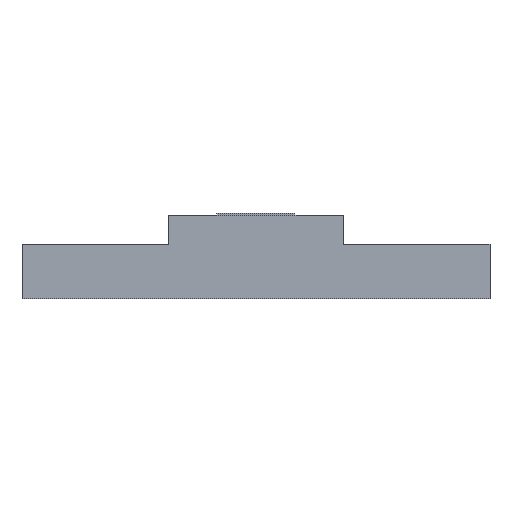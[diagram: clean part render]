
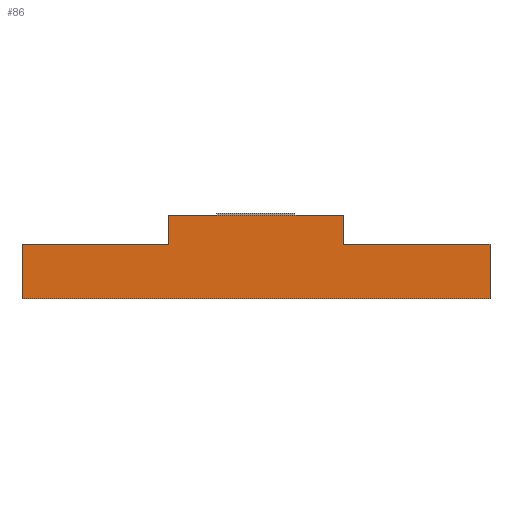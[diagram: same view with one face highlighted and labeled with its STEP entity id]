
A CAD part, front view. The second image highlights one B-rep face of the part: STEP entity #86.
In plain terms, the highlighted planar face has unit normal (0, -1, 0).
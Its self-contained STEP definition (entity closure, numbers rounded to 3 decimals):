
#86=ADVANCED_FACE('',(#243),#245,.T.);
#243=FACE_BOUND('',#244,.T.);
#244=EDGE_LOOP('',(#551,#552,#553,#554,#555,#556,#557,#558,#559,#560));
#245=PLANE('',#246);
#246=AXIS2_PLACEMENT_3D('',#247,#248,#249);
#247=CARTESIAN_POINT('',(-12.,-4.5,0.));
#248=DIRECTION('',(0.,-1.,0.));
#249=DIRECTION('',(1.,0.,0.));
#551=ORIENTED_EDGE('',*,*,#757,.F.);
#552=ORIENTED_EDGE('',*,*,#772,.F.);
#553=ORIENTED_EDGE('',*,*,#773,.F.);
#554=ORIENTED_EDGE('',*,*,#774,.F.);
#555=ORIENTED_EDGE('',*,*,#775,.T.);
#556=ORIENTED_EDGE('',*,*,#776,.T.);
#557=ORIENTED_EDGE('',*,*,#777,.F.);
#558=ORIENTED_EDGE('',*,*,#778,.T.);
#559=ORIENTED_EDGE('',*,*,#761,.F.);
#560=ORIENTED_EDGE('',*,*,#779,.F.);
#757=EDGE_CURVE('',#903,#905,#906,.T.);
#761=EDGE_CURVE('',#911,#913,#914,.T.);
#772=EDGE_CURVE('',#931,#903,#933,.T.);
#773=EDGE_CURVE('',#934,#931,#935,.T.);
#774=EDGE_CURVE('',#936,#934,#937,.T.);
#775=EDGE_CURVE('',#936,#938,#939,.T.);
#776=EDGE_CURVE('',#938,#940,#941,.T.);
#777=EDGE_CURVE('',#942,#940,#943,.T.);
#778=EDGE_CURVE('',#942,#913,#944,.T.);
#779=EDGE_CURVE('',#905,#911,#945,.F.);
#903=VERTEX_POINT('',#1028);
#905=VERTEX_POINT('',#1032);
#906=LINE('',#1033,#1034);
#911=VERTEX_POINT('',#1044);
#913=VERTEX_POINT('',#1048);
#914=LINE('',#1049,#1050);
#931=VERTEX_POINT('',#1086);
#933=LINE('',#1090,#1091);
#934=VERTEX_POINT('',#1093);
#935=LINE('',#1094,#1095);
#936=VERTEX_POINT('',#1097);
#937=LINE('',#1098,#1099);
#938=VERTEX_POINT('',#1101);
#939=LINE('',#1102,#1103);
#940=VERTEX_POINT('',#1105);
#941=LINE('',#1106,#1107);
#942=VERTEX_POINT('',#1109);
#943=LINE('',#1110,#1111);
#944=LINE('',#1113,#1114);
#945=LINE('',#1116,#1117);
#1028=CARTESIAN_POINT('',(-4.5,-4.5,4.3));
#1032=CARTESIAN_POINT('',(-2.,-4.5,4.3));
#1033=CARTESIAN_POINT('',(-4.5,-4.5,4.3));
#1034=VECTOR('',#1035,1.);
#1035=DIRECTION('',(1.,0.,0.));
#1044=CARTESIAN_POINT('',(2.,-4.5,4.3));
#1048=CARTESIAN_POINT('',(4.5,-4.5,4.3));
#1049=CARTESIAN_POINT('',(2.,-4.5,4.3));
#1050=VECTOR('',#1051,1.);
#1051=DIRECTION('',(1.,0.,0.));
#1086=CARTESIAN_POINT('',(-4.5,-4.5,2.8));
#1090=CARTESIAN_POINT('',(-4.5,-4.5,2.8));
#1091=VECTOR('',#1092,1.);
#1092=DIRECTION('',(0.,0.,1.));
#1093=CARTESIAN_POINT('',(-12.,-4.5,2.8));
#1094=CARTESIAN_POINT('',(-12.,-4.5,2.8));
#1095=VECTOR('',#1096,1.);
#1096=DIRECTION('',(1.,0.,0.));
#1097=CARTESIAN_POINT('',(-12.,-4.5,0.));
#1098=CARTESIAN_POINT('',(-12.,-4.5,0.));
#1099=VECTOR('',#1100,1.);
#1100=DIRECTION('',(0.,0.,1.));
#1101=CARTESIAN_POINT('',(12.,-4.5,0.));
#1102=CARTESIAN_POINT('',(-12.,-4.5,0.));
#1103=VECTOR('',#1104,1.);
#1104=DIRECTION('',(1.,0.,0.));
#1105=CARTESIAN_POINT('',(12.,-4.5,2.8));
#1106=CARTESIAN_POINT('',(12.,-4.5,0.));
#1107=VECTOR('',#1108,1.);
#1108=DIRECTION('',(0.,0.,1.));
#1109=CARTESIAN_POINT('',(4.5,-4.5,2.8));
#1110=CARTESIAN_POINT('',(4.5,-4.5,2.8));
#1111=VECTOR('',#1112,1.);
#1112=DIRECTION('',(1.,0.,0.));
#1113=CARTESIAN_POINT('',(4.5,-4.5,2.8));
#1114=VECTOR('',#1115,1.);
#1115=DIRECTION('',(0.,0.,1.));
#1116=CARTESIAN_POINT('',(2.,-4.5,4.3));
#1117=VECTOR('',#1118,1.);
#1118=DIRECTION('',(-1.,0.,0.));
